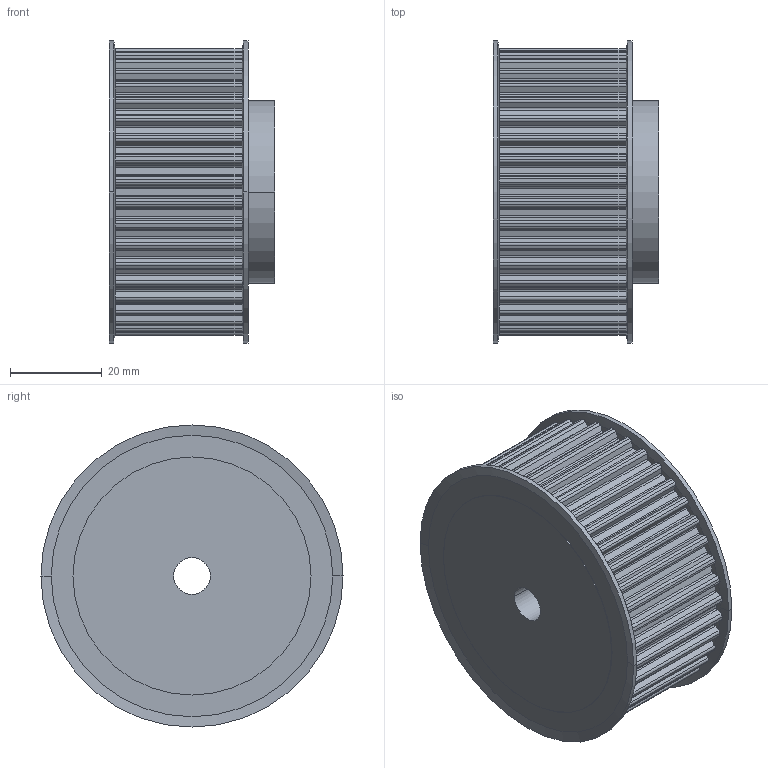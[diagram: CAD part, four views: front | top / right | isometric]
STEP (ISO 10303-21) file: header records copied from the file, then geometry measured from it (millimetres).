
FILE_DESCRIPTION( ( '' ), '1' );
FILE_NAME( 'C:/Users/Stangenbergd/Documents/CAD_Step/1/16244000.stp', '2021-10-19T08:46:20', ( '' ), ( '' ), ' ', ' ', ' ' );
FILE_SCHEMA( ( 'CONFIG_CONTROL_DESIGN' ) );
Length unit declared in the file: millimetre
Products named in the file (1): 1
Bounding box: 36.17 x 66 x 66 mm (x, y, z)
Volume: 93357.9 mm3; surface area: 18100.1 mm2
Topology: 1 solids, 1 shells, 505 faces, 1332 edges, 832 vertices
Faces by surface type: plane 285, cylinder 212, cone 8
Entity records: 15682 total; most frequent: DIRECTION 2936, CARTESIAN_POINT 2670, ORIENTED_EDGE 2664, EDGE_CURVE 1332, AXIS2_PLACEMENT_3D 1098, VERTEX_POINT 832, LINE 740, VECTOR 740
